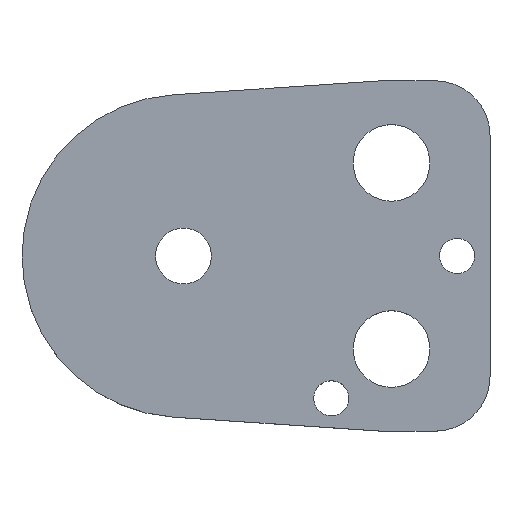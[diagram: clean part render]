
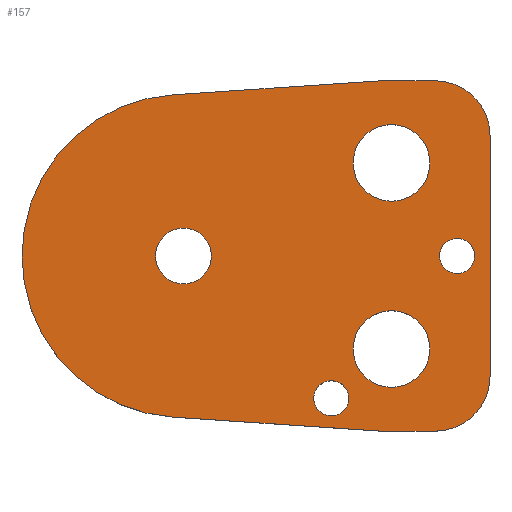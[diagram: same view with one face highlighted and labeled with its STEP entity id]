
A CAD part, top view. The second image highlights one B-rep face of the part: STEP entity #157.
In plain terms, the highlighted planar face has unit normal (0, 0, 1).
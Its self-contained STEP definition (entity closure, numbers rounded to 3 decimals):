
#103=FACE_BOUND('',#207,.T.);
#104=FACE_BOUND('',#208,.T.);
#105=FACE_BOUND('',#209,.T.);
#106=FACE_BOUND('',#210,.T.);
#107=FACE_BOUND('',#211,.T.);
#108=FACE_BOUND('',#212,.T.);
#122=CIRCLE('',#480,10.);
#124=CIRCLE('',#484,10.);
#127=CIRCLE('',#490,29.5);
#138=CIRCLE('',#503,3.2);
#139=CIRCLE('',#504,3.2);
#140=CIRCLE('',#505,7.);
#141=CIRCLE('',#506,7.);
#142=CIRCLE('',#507,7.);
#143=CIRCLE('',#508,7.);
#144=CIRCLE('',#509,3.2);
#145=CIRCLE('',#510,3.2);
#146=CIRCLE('',#511,5.1);
#147=CIRCLE('',#512,5.1);
#157=ADVANCED_FACE('',(#103,#104,#105,#106,#107,#108),#174,.T.);
#174=PLANE('',#513);
#207=EDGE_LOOP('',(#273,#274,#275,#276,#277,#278,#279,#280));
#208=EDGE_LOOP('',(#281,#282));
#209=EDGE_LOOP('',(#283,#284));
#210=EDGE_LOOP('',(#285,#286));
#211=EDGE_LOOP('',(#287,#288));
#212=EDGE_LOOP('',(#289,#290));
#273=ORIENTED_EDGE('',*,*,#368,.T.);
#274=ORIENTED_EDGE('',*,*,#372,.T.);
#275=ORIENTED_EDGE('',*,*,#375,.T.);
#276=ORIENTED_EDGE('',*,*,#378,.T.);
#277=ORIENTED_EDGE('',*,*,#381,.T.);
#278=ORIENTED_EDGE('',*,*,#384,.T.);
#279=ORIENTED_EDGE('',*,*,#387,.T.);
#280=ORIENTED_EDGE('',*,*,#390,.T.);
#281=ORIENTED_EDGE('',*,*,#401,.T.);
#282=ORIENTED_EDGE('',*,*,#402,.T.);
#283=ORIENTED_EDGE('',*,*,#403,.T.);
#284=ORIENTED_EDGE('',*,*,#404,.T.);
#285=ORIENTED_EDGE('',*,*,#405,.T.);
#286=ORIENTED_EDGE('',*,*,#406,.T.);
#287=ORIENTED_EDGE('',*,*,#407,.T.);
#288=ORIENTED_EDGE('',*,*,#408,.T.);
#289=ORIENTED_EDGE('',*,*,#409,.T.);
#290=ORIENTED_EDGE('',*,*,#410,.T.);
#332=VERTEX_POINT('',#649);
#333=VERTEX_POINT('',#651);
#336=VERTEX_POINT('',#658);
#338=VERTEX_POINT('',#664);
#340=VERTEX_POINT('',#670);
#342=VERTEX_POINT('',#676);
#344=VERTEX_POINT('',#682);
#346=VERTEX_POINT('',#688);
#357=VERTEX_POINT('',#717);
#358=VERTEX_POINT('',#718);
#359=VERTEX_POINT('',#721);
#360=VERTEX_POINT('',#722);
#361=VERTEX_POINT('',#725);
#362=VERTEX_POINT('',#726);
#363=VERTEX_POINT('',#729);
#364=VERTEX_POINT('',#730);
#365=VERTEX_POINT('',#733);
#366=VERTEX_POINT('',#734);
#368=EDGE_CURVE('',#333,#332,#422,.T.);
#372=EDGE_CURVE('',#332,#336,#426,.T.);
#375=EDGE_CURVE('',#336,#338,#122,.T.);
#378=EDGE_CURVE('',#338,#340,#430,.T.);
#381=EDGE_CURVE('',#340,#342,#124,.T.);
#384=EDGE_CURVE('',#342,#344,#434,.T.);
#387=EDGE_CURVE('',#344,#346,#437,.T.);
#390=EDGE_CURVE('',#346,#333,#127,.T.);
#401=EDGE_CURVE('',#357,#358,#138,.T.);
#402=EDGE_CURVE('',#358,#357,#139,.T.);
#403=EDGE_CURVE('',#359,#360,#140,.T.);
#404=EDGE_CURVE('',#360,#359,#141,.T.);
#405=EDGE_CURVE('',#361,#362,#142,.T.);
#406=EDGE_CURVE('',#362,#361,#143,.T.);
#407=EDGE_CURVE('',#363,#364,#144,.T.);
#408=EDGE_CURVE('',#364,#363,#145,.T.);
#409=EDGE_CURVE('',#365,#366,#146,.T.);
#410=EDGE_CURVE('',#366,#365,#147,.T.);
#422=LINE('',#650,#450);
#426=LINE('',#659,#454);
#430=LINE('',#671,#458);
#434=LINE('',#683,#462);
#437=LINE('',#689,#465);
#450=VECTOR('',#527,1.);
#454=VECTOR('',#533,1.);
#458=VECTOR('',#545,1.);
#462=VECTOR('',#557,1.);
#465=VECTOR('',#562,1.);
#480=AXIS2_PLACEMENT_3D('',#665,#538,#539);
#484=AXIS2_PLACEMENT_3D('',#677,#550,#551);
#490=AXIS2_PLACEMENT_3D('',#693,#568,#569);
#503=AXIS2_PLACEMENT_3D('',#716,#594,#595);
#504=AXIS2_PLACEMENT_3D('',#719,#596,#597);
#505=AXIS2_PLACEMENT_3D('',#720,#598,#599);
#506=AXIS2_PLACEMENT_3D('',#723,#600,#601);
#507=AXIS2_PLACEMENT_3D('',#724,#602,#603);
#508=AXIS2_PLACEMENT_3D('',#727,#604,#605);
#509=AXIS2_PLACEMENT_3D('',#728,#606,#607);
#510=AXIS2_PLACEMENT_3D('',#731,#608,#609);
#511=AXIS2_PLACEMENT_3D('',#732,#610,#611);
#512=AXIS2_PLACEMENT_3D('',#735,#612,#613);
#513=AXIS2_PLACEMENT_3D('',#736,#614,#615);
#527=DIRECTION('',(0.998,-0.067,0.));
#533=DIRECTION('',(1.,0.,0.));
#538=DIRECTION('',(0.,0.,1.));
#539=DIRECTION('',(-0.707,0.707,0.));
#545=DIRECTION('',(0.,1.,0.));
#550=DIRECTION('',(0.,0.,1.));
#551=DIRECTION('',(-0.707,-0.707,0.));
#557=DIRECTION('',(-1.,0.,0.));
#562=DIRECTION('',(-0.998,-0.067,0.));
#568=DIRECTION('',(0.,0.,1.));
#569=DIRECTION('',(1.,0.,0.));
#594=DIRECTION('',(0.,0.,-1.));
#595=DIRECTION('',(-1.,0.,0.));
#596=DIRECTION('',(0.,0.,-1.));
#597=DIRECTION('',(1.,0.,0.));
#598=DIRECTION('',(0.,0.,-1.));
#599=DIRECTION('',(-1.,0.,0.));
#600=DIRECTION('',(0.,0.,-1.));
#601=DIRECTION('',(1.,0.,0.));
#602=DIRECTION('',(0.,0.,-1.));
#603=DIRECTION('',(-1.,0.,0.));
#604=DIRECTION('',(0.,0.,-1.));
#605=DIRECTION('',(1.,0.,0.));
#606=DIRECTION('',(0.,0.,-1.));
#607=DIRECTION('',(-1.,0.,0.));
#608=DIRECTION('',(0.,0.,-1.));
#609=DIRECTION('',(1.,0.,0.));
#610=DIRECTION('',(0.,0.,-1.));
#611=DIRECTION('',(-1.,0.,0.));
#612=DIRECTION('',(0.,0.,-1.));
#613=DIRECTION('',(1.,0.,0.));
#614=DIRECTION('',(0.,0.,1.));
#615=DIRECTION('',(0.998,-0.067,0.));
#649=CARTESIAN_POINT('',(36.,-32.,8.));
#650=CARTESIAN_POINT('',(36.,-32.,8.));
#651=CARTESIAN_POINT('',(-1.989,-29.433,8.));
#658=CARTESIAN_POINT('',(46.,-32.,8.));
#659=CARTESIAN_POINT('',(36.,-32.,8.));
#664=CARTESIAN_POINT('',(56.,-22.,8.));
#665=CARTESIAN_POINT('',(46.,-22.,8.));
#670=CARTESIAN_POINT('',(56.,22.,8.));
#671=CARTESIAN_POINT('',(56.,22.,8.));
#676=CARTESIAN_POINT('',(46.,32.,8.));
#677=CARTESIAN_POINT('',(46.,22.,8.));
#682=CARTESIAN_POINT('',(36.,32.,8.));
#683=CARTESIAN_POINT('',(36.,32.,8.));
#688=CARTESIAN_POINT('',(-1.989,29.433,8.));
#689=CARTESIAN_POINT('',(36.,32.,8.));
#693=CARTESIAN_POINT('',(0.,0.,8.));
#716=CARTESIAN_POINT('',(50.,0.,8.));
#717=CARTESIAN_POINT('',(50.,3.2,8.));
#718=CARTESIAN_POINT('',(50.,-3.2,8.));
#719=CARTESIAN_POINT('',(50.,0.,8.));
#720=CARTESIAN_POINT('',(38.,17.,8.));
#721=CARTESIAN_POINT('',(38.,24.,8.));
#722=CARTESIAN_POINT('',(38.,10.,8.));
#723=CARTESIAN_POINT('',(38.,17.,8.));
#724=CARTESIAN_POINT('',(38.,-17.,8.));
#725=CARTESIAN_POINT('',(38.,-10.,8.));
#726=CARTESIAN_POINT('',(38.,-24.,8.));
#727=CARTESIAN_POINT('',(38.,-17.,8.));
#728=CARTESIAN_POINT('',(27.,-26.,8.));
#729=CARTESIAN_POINT('',(27.,-22.8,8.));
#730=CARTESIAN_POINT('',(27.,-29.2,8.));
#731=CARTESIAN_POINT('',(27.,-26.,8.));
#732=CARTESIAN_POINT('',(0.,0.,8.));
#733=CARTESIAN_POINT('',(0.,5.1,8.));
#734=CARTESIAN_POINT('',(0.,-5.1,8.));
#735=CARTESIAN_POINT('',(0.,0.,8.));
#736=CARTESIAN_POINT('',(-1.989,-29.433,8.));
